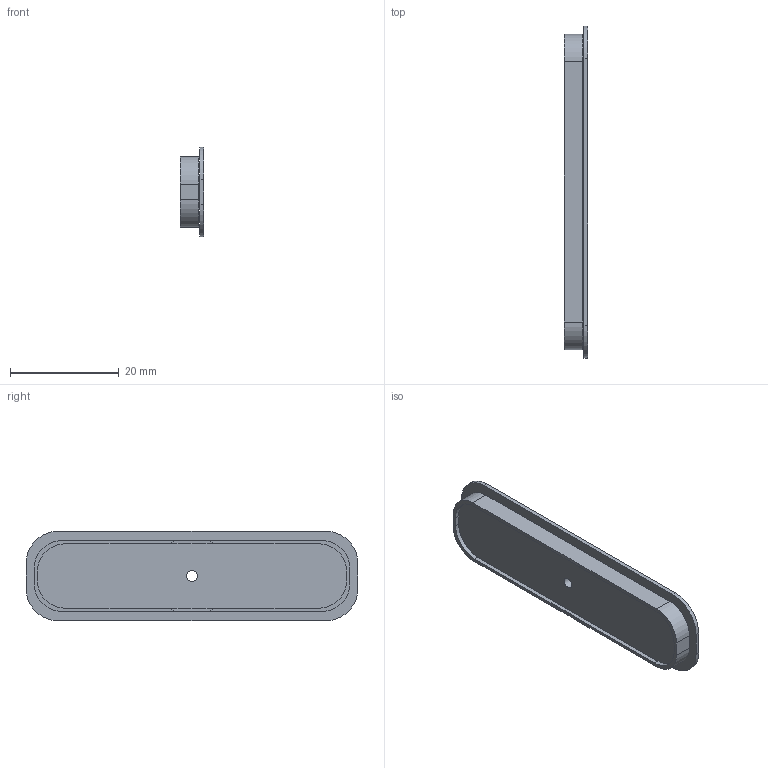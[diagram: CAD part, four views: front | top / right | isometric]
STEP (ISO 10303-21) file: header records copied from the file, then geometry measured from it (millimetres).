
FILE_DESCRIPTION(('Open CASCADE Model'),'2;1');
FILE_NAME('Open CASCADE Shape Model','2026-09-06T11:35:31',('Author'),( 'Open CASCADE'),'Open CASCADE STEP processor 7.7','Open CASCADE 7.7' ,'Unknown');
FILE_SCHEMA(('AUTOMOTIVE_DESIGN { 1 0 10303 214 1 1 1 1 }'));
Length unit declared in the file: millimetre
Products named in the file (1): Open CASCADE STEP translator 7.7 1
Bounding box: 4.3 x 61 x 16.5 mm (x, y, z)
Volume: 2625 mm3; surface area: 4091.3 mm2
Topology: 1 solids, 1 shells, 48 faces, 123 edges, 82 vertices
Faces by surface type: plane 29, cylinder 17, sphere 2
Full cylindrical faces by diameter (mm): 2 x5
Entity records: 3250 total; most frequent: CARTESIAN_POINT 734, DIRECTION 483, LINE 281, VECTOR 281, ORIENTED_EDGE 246, PCURVE 246, DEFINITIONAL_REPRESENTATION 246, EDGE_CURVE 123
